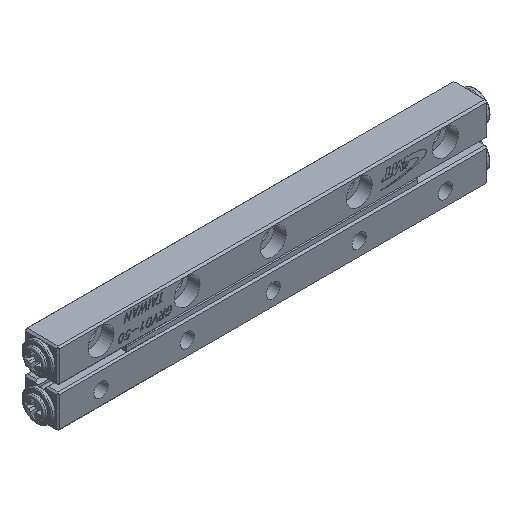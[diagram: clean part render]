
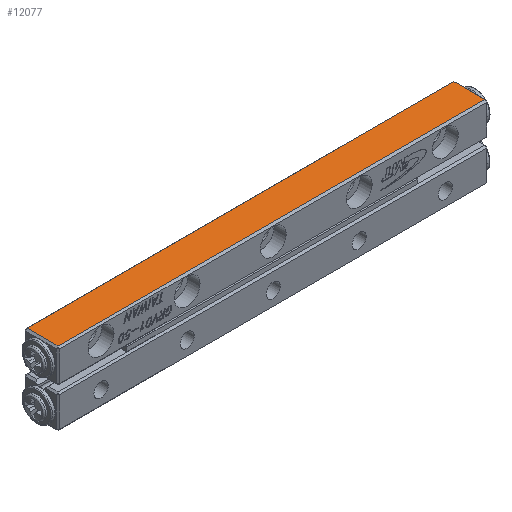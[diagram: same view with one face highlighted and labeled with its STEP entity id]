
A CAD part, isometric view. The second image highlights one B-rep face of the part: STEP entity #12077.
In plain terms, the highlighted planar face has unit normal (0, 0, 1) as drawn and (0, 0, -1) by its records, which use the part's own axes.
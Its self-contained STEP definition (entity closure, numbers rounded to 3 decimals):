
#724 = DIRECTION ( 'NONE',  ( 0., 1., 0. ) ) ;
#1911 = EDGE_CURVE ( 'NONE', #6350, #2504, #2948, .T. ) ;
#2504 = VERTEX_POINT ( 'NONE', #20507 ) ;
#2948 = LINE ( 'NONE', #10785, #13793 ) ;
#3546 = EDGE_CURVE ( 'NONE', #2504, #11180, #6155, .T. ) ;
#3589 = DIRECTION ( 'NONE',  ( 0., 0., -1. ) ) ;
#4300 = ORIENTED_EDGE ( 'NONE', *, *, #1911, .T. ) ;
#4758 = EDGE_CURVE ( 'NONE', #11180, #17918, #9288, .T. ) ;
#5272 = DIRECTION ( 'NONE',  ( 0., 1., 0. ) ) ;
#6140 = CARTESIAN_POINT ( 'NONE',  ( -25., 1.8, 0. ) ) ;
#6155 = LINE ( 'NONE', #13502, #15253 ) ;
#6350 = VERTEX_POINT ( 'NONE', #7570 ) ;
#6988 = ORIENTED_EDGE ( 'NONE', *, *, #3546, .T. ) ;
#7076 = FACE_OUTER_BOUND ( 'NONE', #19722, .T. ) ;
#7390 = CARTESIAN_POINT ( 'NONE',  ( 24.8, 1.8, 0. ) ) ;
#7570 = CARTESIAN_POINT ( 'NONE',  ( 24.8, -1.8, 0. ) ) ;
#8068 = LINE ( 'NONE', #17082, #12122 ) ;
#8226 = VECTOR ( 'NONE', #9522, 1000. ) ;
#9288 = LINE ( 'NONE', #6140, #8226 ) ;
#9522 = DIRECTION ( 'NONE',  ( 1., 0., 0. ) ) ;
#10118 = CARTESIAN_POINT ( 'NONE',  ( -24.8, 1.8, 0. ) ) ;
#10785 = CARTESIAN_POINT ( 'NONE',  ( -25., -1.8, 0. ) ) ;
#11062 = CARTESIAN_POINT ( 'NONE',  ( -25., -2., 0. ) ) ;
#11180 = VERTEX_POINT ( 'NONE', #10118 ) ;
#11817 = ORIENTED_EDGE ( 'NONE', *, *, #14602, .T. ) ;
#12077 = ADVANCED_FACE ( 'NONE', ( #7076 ), #20115, .T. ) ;
#12122 = VECTOR ( 'NONE', #17332, 1000. ) ;
#13109 = AXIS2_PLACEMENT_3D ( 'NONE', #11062, #3589, #5272 ) ;
#13502 = CARTESIAN_POINT ( 'NONE',  ( -24.8, 2., 0. ) ) ;
#13793 = VECTOR ( 'NONE', #14378, 1000. ) ;
#14378 = DIRECTION ( 'NONE',  ( -1., 0., 0. ) ) ;
#14602 = EDGE_CURVE ( 'NONE', #17918, #6350, #8068, .T. ) ;
#15253 = VECTOR ( 'NONE', #724, 1000. ) ;
#16151 = ORIENTED_EDGE ( 'NONE', *, *, #4758, .T. ) ;
#17082 = CARTESIAN_POINT ( 'NONE',  ( 24.8, -2., 0. ) ) ;
#17332 = DIRECTION ( 'NONE',  ( 0., -1., 0. ) ) ;
#17918 = VERTEX_POINT ( 'NONE', #7390 ) ;
#19722 = EDGE_LOOP ( 'NONE', ( #16151, #11817, #4300, #6988 ) ) ;
#20115 = PLANE ( 'NONE',  #13109 ) ;
#20507 = CARTESIAN_POINT ( 'NONE',  ( -24.8, -1.8, 0. ) ) ;
